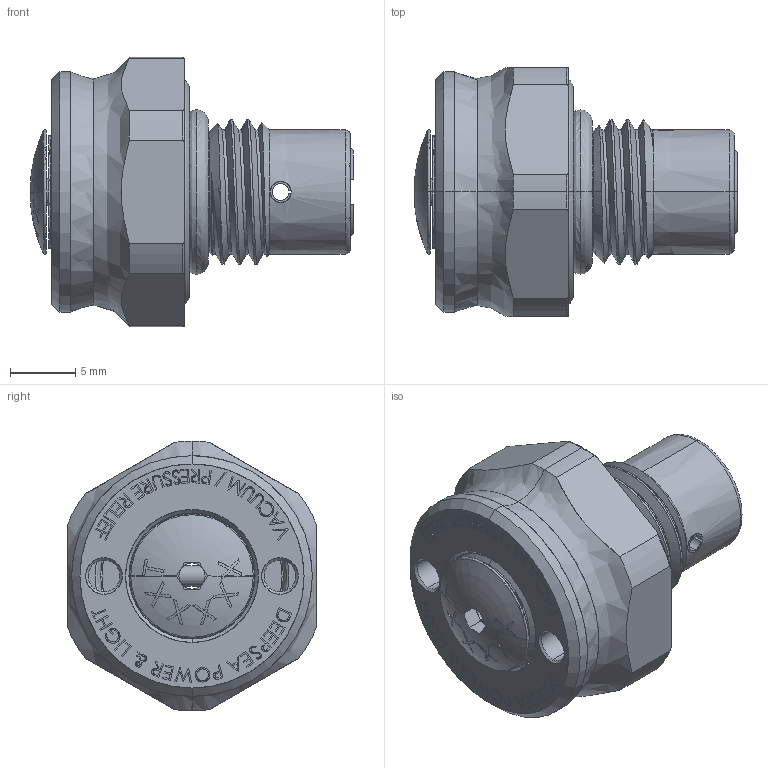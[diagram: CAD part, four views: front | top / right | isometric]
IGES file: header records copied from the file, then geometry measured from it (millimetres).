
Start section: SolidWorks IGES file using analytic representation for surfaces
Global section: file name: S:\3D_Product_Models\Pressure_Relief_Valves\PRV-DualSeal-0A-C-20140708a.IGS; native system: SolidWorks 2014; preprocessor: SolidWorks 2014; author: CJ_Chew; date: 140708.134754; units: inch
Bounding box: 24.69 x 19.05 x 20.64 mm (x, y, z)
Surface area: 3055.4 mm2 (no closed solid volume)
Topology: 0 solids, 0 shells, 547 faces, 5865 edges, 5865 vertices
Faces by surface type: bspline 467, revolution 80
